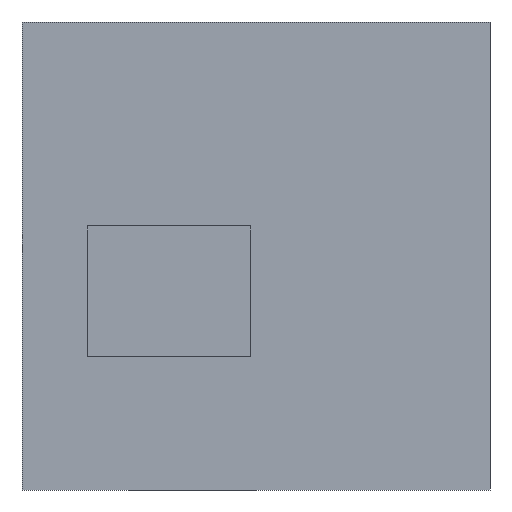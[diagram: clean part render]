
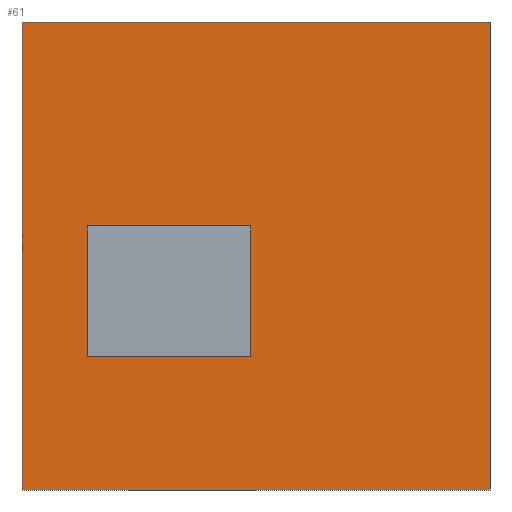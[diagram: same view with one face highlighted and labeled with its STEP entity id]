
A CAD part, front view. The second image highlights one B-rep face of the part: STEP entity #61.
In plain terms, the highlighted planar face has unit normal (0, -1, 0).
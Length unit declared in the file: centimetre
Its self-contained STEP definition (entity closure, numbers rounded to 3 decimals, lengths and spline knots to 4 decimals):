
#2 = LINE ( 'NONE', #198, #318 ) ;
#3 = CARTESIAN_POINT ( 'NONE',  ( 489.1229, 0., 564.135 ) ) ;
#7 = EDGE_CURVE ( 'NONE', #499, #126, #280, .T. ) ;
#13 = VECTOR ( 'NONE', #169, 100. ) ;
#19 = VERTEX_POINT ( 'NONE', #167 ) ;
#31 = CARTESIAN_POINT ( 'NONE',  ( 140.6104, 0., 564.135 ) ) ;
#35 = DIRECTION ( 'NONE',  ( 0., 0., -1. ) ) ;
#38 = VECTOR ( 'NONE', #58, 100. ) ;
#47 = VECTOR ( 'NONE', #619, 100. ) ;
#58 = DIRECTION ( 'NONE',  ( 0., 0., -1. ) ) ;
#61 = ADVANCED_FACE ( 'NONE', ( #538, #75 ), #379, .F. ) ;
#66 = VECTOR ( 'NONE', #35, 100. ) ;
#75 = FACE_OUTER_BOUND ( 'NONE', #325, .T. ) ;
#76 = VERTEX_POINT ( 'NONE', #78 ) ;
#78 = CARTESIAN_POINT ( 'NONE',  ( 1000., 0., 1000. ) ) ;
#97 = VECTOR ( 'NONE', #515, 100. ) ;
#109 = AXIS2_PLACEMENT_3D ( 'NONE', #273, #422, #585 ) ;
#113 = EDGE_CURVE ( 'NONE', #278, #370, #574, .T. ) ;
#124 = VERTEX_POINT ( 'NONE', #471 ) ;
#126 = VERTEX_POINT ( 'NONE', #518 ) ;
#167 = CARTESIAN_POINT ( 'NONE',  ( 489.1229, 0., 285.0483 ) ) ;
#169 = DIRECTION ( 'NONE',  ( 1., 0., 0. ) ) ;
#184 = DIRECTION ( 'NONE',  ( 1., 0., 0. ) ) ;
#192 = LINE ( 'NONE', #597, #66 ) ;
#198 = CARTESIAN_POINT ( 'NONE',  ( 489.1229, 0., 285.0483 ) ) ;
#211 = CARTESIAN_POINT ( 'NONE',  ( 140.6104, 0., 285.0483 ) ) ;
#273 = CARTESIAN_POINT ( 'NONE',  ( 0., 0., 1000. ) ) ;
#278 = VERTEX_POINT ( 'NONE', #544 ) ;
#280 = LINE ( 'NONE', #31, #430 ) ;
#309 = LINE ( 'NONE', #466, #97 ) ;
#318 = VECTOR ( 'NONE', #458, 100. ) ;
#320 = ORIENTED_EDGE ( 'NONE', *, *, #113, .T. ) ;
#324 = CARTESIAN_POINT ( 'NONE',  ( 0., 0., 0. ) ) ;
#325 = EDGE_LOOP ( 'NONE', ( #320, #533, #536, #580 ) ) ;
#328 = ORIENTED_EDGE ( 'NONE', *, *, #411, .F. ) ;
#370 = VERTEX_POINT ( 'NONE', #667 ) ;
#379 = PLANE ( 'NONE',  #109 ) ;
#388 = ORIENTED_EDGE ( 'NONE', *, *, #7, .F. ) ;
#411 = EDGE_CURVE ( 'NONE', #19, #499, #2, .T. ) ;
#422 = DIRECTION ( 'NONE',  ( 0., 1., 0. ) ) ;
#427 = VERTEX_POINT ( 'NONE', #514 ) ;
#428 = VECTOR ( 'NONE', #184, 100. ) ;
#430 = VECTOR ( 'NONE', #644, 100. ) ;
#458 = DIRECTION ( 'NONE',  ( 0., 0., 1. ) ) ;
#462 = CARTESIAN_POINT ( 'NONE',  ( 1000., 0., 1000. ) ) ;
#466 = CARTESIAN_POINT ( 'NONE',  ( 140.6104, 0., 285.0483 ) ) ;
#471 = CARTESIAN_POINT ( 'NONE',  ( 0., 0., 1000. ) ) ;
#481 = EDGE_LOOP ( 'NONE', ( #596, #601, #388, #328 ) ) ;
#499 = VERTEX_POINT ( 'NONE', #3 ) ;
#512 = LINE ( 'NONE', #462, #47 ) ;
#514 = CARTESIAN_POINT ( 'NONE',  ( 140.6104, 0., 285.0483 ) ) ;
#515 = DIRECTION ( 'NONE',  ( 1., 0., 0. ) ) ;
#518 = CARTESIAN_POINT ( 'NONE',  ( 140.6104, 0., 564.135 ) ) ;
#533 = ORIENTED_EDGE ( 'NONE', *, *, #588, .F. ) ;
#536 = ORIENTED_EDGE ( 'NONE', *, *, #660, .F. ) ;
#538 = FACE_BOUND ( 'NONE', #481, .T. ) ;
#540 = LINE ( 'NONE', #657, #428 ) ;
#544 = CARTESIAN_POINT ( 'NONE',  ( 0., 0., 0. ) ) ;
#564 = LINE ( 'NONE', #211, #38 ) ;
#574 = LINE ( 'NONE', #324, #13 ) ;
#580 = ORIENTED_EDGE ( 'NONE', *, *, #637, .T. ) ;
#585 = DIRECTION ( 'NONE',  ( 0., 0., 1. ) ) ;
#588 = EDGE_CURVE ( 'NONE', #76, #370, #512, .T. ) ;
#594 = EDGE_CURVE ( 'NONE', #126, #427, #564, .T. ) ;
#596 = ORIENTED_EDGE ( 'NONE', *, *, #606, .F. ) ;
#597 = CARTESIAN_POINT ( 'NONE',  ( 0., 0., 1000. ) ) ;
#601 = ORIENTED_EDGE ( 'NONE', *, *, #594, .F. ) ;
#606 = EDGE_CURVE ( 'NONE', #427, #19, #309, .T. ) ;
#619 = DIRECTION ( 'NONE',  ( 0., 0., -1. ) ) ;
#637 = EDGE_CURVE ( 'NONE', #124, #278, #192, .T. ) ;
#644 = DIRECTION ( 'NONE',  ( -1., 0., 0. ) ) ;
#657 = CARTESIAN_POINT ( 'NONE',  ( 0., 0., 1000. ) ) ;
#660 = EDGE_CURVE ( 'NONE', #124, #76, #540, .T. ) ;
#667 = CARTESIAN_POINT ( 'NONE',  ( 1000., 0., 0. ) ) ;
